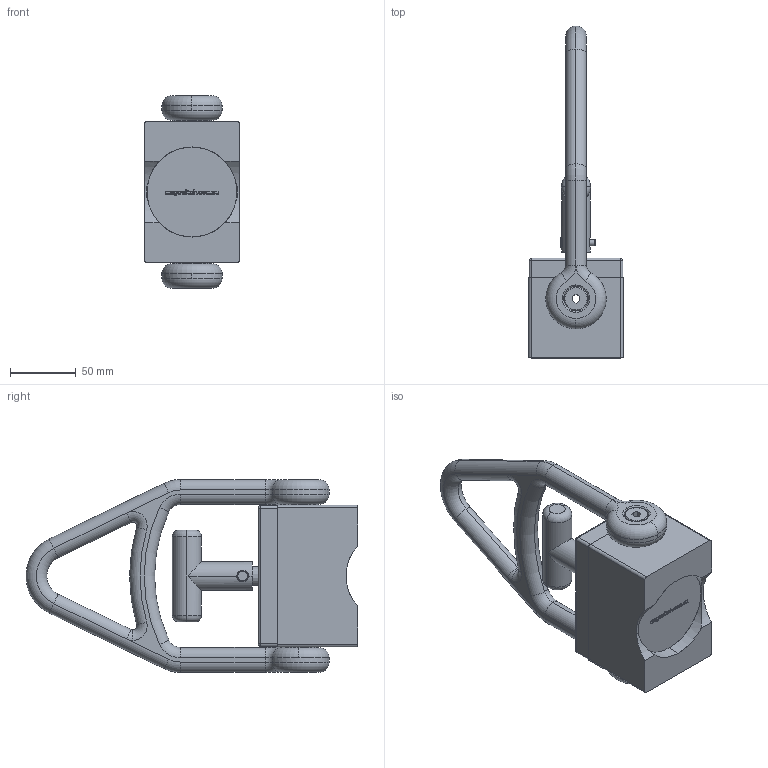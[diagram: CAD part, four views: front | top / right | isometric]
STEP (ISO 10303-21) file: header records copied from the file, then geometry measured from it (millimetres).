
FILE_DESCRIPTION (( 'STEP AP203' ), '1' );
FILE_NAME ('8100088_p.STEP', '2013-10-01T20:17:18', ( '' ), ( '' ), 'SwSTEP 2.0', 'SolidWorks 2010', '' );
FILE_SCHEMA (( 'CONFIG_CONTROL_DESIGN' ));
Length unit declared in the file: millimetre
Products named in the file (1): 8100088_p
Bounding box: 72 x 253.01 x 147.1 mm (x, y, z)
Surface area: 92967.6 mm2 (no closed solid volume)
Topology: 0 solids, 16 shells, 336 faces, 1737 edges, 1355 vertices
Faces by surface type: plane 156, cylinder 62, cone 49, torus 47, bspline 18, sphere 4
Entity records: 18047 total; most frequent: CARTESIAN_POINT 4733, DIRECTION 2668, ORIENTED_EDGE 2333, EDGE_CURVE 1731, VERTEX_POINT 1355, VECTOR 1300, LINE 1300, AXIS2_PLACEMENT_3D 684
